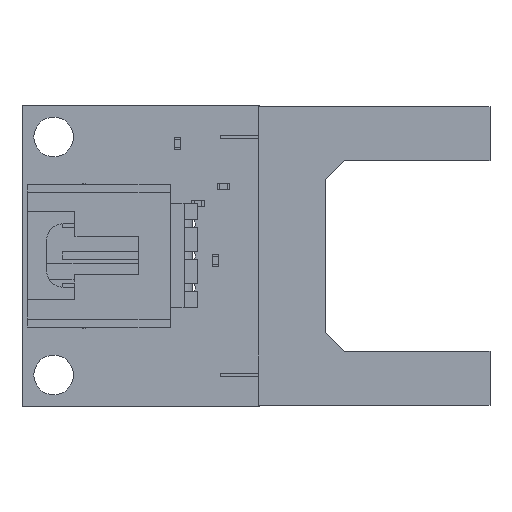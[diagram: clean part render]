
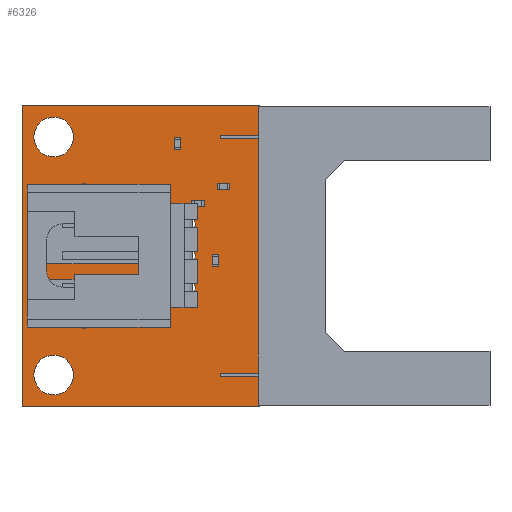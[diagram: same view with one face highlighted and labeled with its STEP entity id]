
A CAD part, top view. The second image highlights one B-rep face of the part: STEP entity #6326.
In plain terms, the highlighted planar face has unit normal (0, 0, 1).
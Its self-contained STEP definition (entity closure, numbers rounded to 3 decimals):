
#2787=CIRCLE('',#6533,1.588);
#2789=CIRCLE('',#6536,1.588);
#2791=CIRCLE('',#6539,1.842);
#2793=CIRCLE('',#6542,0.545);
#2795=CIRCLE('',#6545,0.545);
#2797=CIRCLE('',#6548,1.842);
#2799=CIRCLE('',#6551,0.545);
#2842=VERTEX_POINT('',#7756);
#2843=VERTEX_POINT('',#7758);
#2845=VERTEX_POINT('',#7764);
#2847=VERTEX_POINT('',#7770);
#2849=VERTEX_POINT('',#7778);
#2851=VERTEX_POINT('',#7784);
#2853=VERTEX_POINT('',#7790);
#2855=VERTEX_POINT('',#7796);
#2857=VERTEX_POINT('',#7802);
#2859=VERTEX_POINT('',#7808);
#2861=VERTEX_POINT('',#7814);
#3204=VECTOR('',#6839,1.);
#3208=VECTOR('',#6844,1.);
#3211=VECTOR('',#6848,1.);
#3213=VECTOR('',#6851,1.);
#3694=LINE('',#7757,#3204);
#3698=LINE('',#7765,#3208);
#3701=LINE('',#7771,#3211);
#3703=LINE('',#7774,#3213);
#4184=EDGE_CURVE('',#2843,#2842,#3694,.T.);
#4188=EDGE_CURVE('',#2842,#2845,#3698,.T.);
#4191=EDGE_CURVE('',#2845,#2847,#3701,.T.);
#4193=EDGE_CURVE('',#2847,#2843,#3703,.T.);
#4195=EDGE_CURVE('',#2849,#2849,#2787,.T.);
#4198=EDGE_CURVE('',#2851,#2851,#2789,.T.);
#4201=EDGE_CURVE('',#2853,#2853,#2791,.T.);
#4204=EDGE_CURVE('',#2855,#2855,#2793,.T.);
#4207=EDGE_CURVE('',#2857,#2857,#2795,.T.);
#4210=EDGE_CURVE('',#2859,#2859,#2797,.T.);
#4213=EDGE_CURVE('',#2861,#2861,#2799,.T.);
#4793=ORIENTED_EDGE('',*,*,#4184,.T.);
#4794=ORIENTED_EDGE('',*,*,#4188,.T.);
#4795=ORIENTED_EDGE('',*,*,#4191,.T.);
#4796=ORIENTED_EDGE('',*,*,#4193,.T.);
#4797=ORIENTED_EDGE('',*,*,#4195,.F.);
#4798=ORIENTED_EDGE('',*,*,#4198,.F.);
#4799=ORIENTED_EDGE('',*,*,#4201,.F.);
#4800=ORIENTED_EDGE('',*,*,#4204,.F.);
#4801=ORIENTED_EDGE('',*,*,#4207,.F.);
#4802=ORIENTED_EDGE('',*,*,#4210,.F.);
#4803=ORIENTED_EDGE('',*,*,#4213,.F.);
#5869=EDGE_LOOP('',(#4793,#4794,#4795,#4796));
#5870=EDGE_LOOP('',(#4797));
#5871=EDGE_LOOP('',(#4798));
#5872=EDGE_LOOP('',(#4799));
#5873=EDGE_LOOP('',(#4800));
#5874=EDGE_LOOP('',(#4801));
#5875=EDGE_LOOP('',(#4802));
#5876=EDGE_LOOP('',(#4803));
#6101=FACE_BOUND('',#5869,.T.);
#6102=FACE_BOUND('',#5870,.T.);
#6103=FACE_BOUND('',#5871,.T.);
#6104=FACE_BOUND('',#5872,.T.);
#6105=FACE_BOUND('',#5873,.T.);
#6106=FACE_BOUND('',#5874,.T.);
#6107=FACE_BOUND('',#5875,.T.);
#6108=FACE_BOUND('',#5876,.T.);
#6326=ADVANCED_FACE('',(#6101,#6102,#6103,#6104,#6105,#6106,#6107,#6108),
#9236,.F.);
#6533=AXIS2_PLACEMENT_3D('',#7779,#6855,#6856);
#6536=AXIS2_PLACEMENT_3D('',#7785,#6862,#6863);
#6539=AXIS2_PLACEMENT_3D('',#7791,#6869,#6870);
#6542=AXIS2_PLACEMENT_3D('',#7797,#6876,#6877);
#6545=AXIS2_PLACEMENT_3D('',#7803,#6883,#6884);
#6548=AXIS2_PLACEMENT_3D('',#7809,#6890,#6891);
#6551=AXIS2_PLACEMENT_3D('',#7815,#6897,#6898);
#6554=AXIS2_PLACEMENT_3D('',#7818,#6902,$);
#6839=DIRECTION('',(1.,0.,0.));
#6844=DIRECTION('',(0.,1.,0.));
#6848=DIRECTION('',(-1.,0.,0.));
#6851=DIRECTION('',(0.,-1.,0.));
#6855=DIRECTION('',(0.,0.,1.));
#6856=DIRECTION('',(1.588,0.,0.));
#6862=DIRECTION('',(0.,0.,1.));
#6863=DIRECTION('',(1.588,0.,0.));
#6869=DIRECTION('',(0.,0.,1.));
#6870=DIRECTION('',(1.842,0.,0.));
#6876=DIRECTION('',(0.,0.,1.));
#6877=DIRECTION('',(0.545,0.,0.));
#6883=DIRECTION('',(0.,0.,1.));
#6884=DIRECTION('',(0.545,0.,0.));
#6890=DIRECTION('',(0.,0.,1.));
#6891=DIRECTION('',(1.842,0.,0.));
#6897=DIRECTION('',(0.,0.,1.));
#6898=DIRECTION('',(0.545,0.,0.));
#6902=DIRECTION('',(0.,0.,-1.));
#7756=CARTESIAN_POINT('',(19.05,0.,0.));
#7757=CARTESIAN_POINT('',(0.,0.,0.));
#7758=CARTESIAN_POINT('',(0.,0.,0.));
#7764=CARTESIAN_POINT('',(19.05,24.13,0.));
#7765=CARTESIAN_POINT('',(19.05,0.,0.));
#7770=CARTESIAN_POINT('',(0.,24.13,0.));
#7771=CARTESIAN_POINT('',(19.05,24.13,0.));
#7774=CARTESIAN_POINT('',(0.,24.13,0.));
#7778=CARTESIAN_POINT('',(4.128,2.54,0.));
#7779=CARTESIAN_POINT('',(2.54,2.54,0.));
#7784=CARTESIAN_POINT('',(4.128,21.59,0.));
#7785=CARTESIAN_POINT('',(2.54,21.59,0.));
#7790=CARTESIAN_POINT('',(6.795,8.128,0.));
#7791=CARTESIAN_POINT('',(4.953,8.128,0.));
#7796=CARTESIAN_POINT('',(13.88,12.065,0.));
#7797=CARTESIAN_POINT('',(13.335,12.065,0.));
#7802=CARTESIAN_POINT('',(13.88,9.525,0.));
#7803=CARTESIAN_POINT('',(13.335,9.525,0.));
#7808=CARTESIAN_POINT('',(6.795,16.002,0.));
#7809=CARTESIAN_POINT('',(4.953,16.002,0.));
#7814=CARTESIAN_POINT('',(13.88,14.605,0.));
#7815=CARTESIAN_POINT('',(13.335,14.605,0.));
#7818=CARTESIAN_POINT('',(0.,0.,0.));
#9236=PLANE('',#6554);
